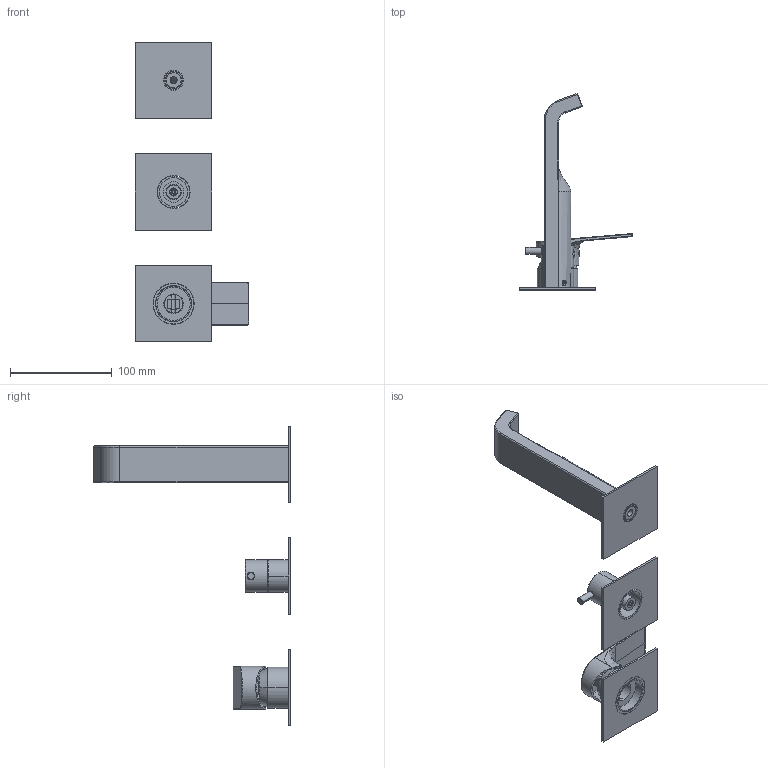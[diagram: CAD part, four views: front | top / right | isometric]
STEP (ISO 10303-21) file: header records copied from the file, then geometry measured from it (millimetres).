
FILE_DESCRIPTION((''),'2;1');
FILE_NAME('3D_SW0006','2024-09-30T14:56:34',('volponeff'),(''),'CREO PARAMETRIC BY PTC INC, 2022014','CREO PARAMETRIC BY PTC INC, 2022014','');
FILE_SCHEMA(('CONFIG_CONTROL_DESIGN'));
Products named in the file (1): 3D_SW0006
Bounding box: 111.29 x 193.44 x 295 mm (x, y, z)
Volume: 166226.1 mm3; surface area: 132241.9 mm2
Topology: 9 solids, 9 shells, 2059 faces, 5408 edges, 3467 vertices
Faces by surface type: plane 1103, cylinder 531, bspline 163, cone 147, torus 93, sphere 20, extrusion 2
Entity records: 131191 total; most frequent: CARTESIAN_POINT 82075, ORIENTED_EDGE 10768, DIRECTION 9186, EDGE_CURVE 5384, VERTEX_POINT 3467, VECTOR 3268, LINE 3266, AXIS2_PLACEMENT_3D 2959
